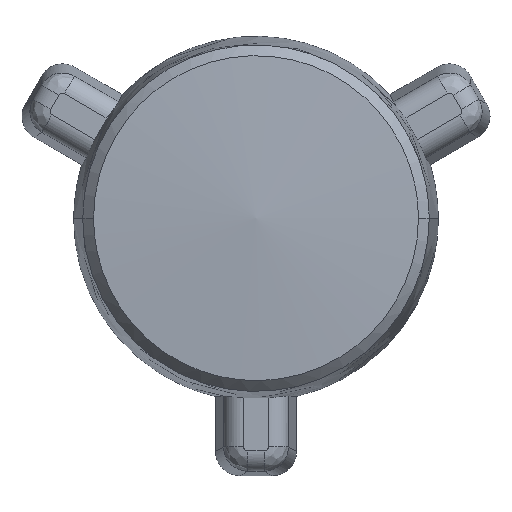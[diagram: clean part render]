
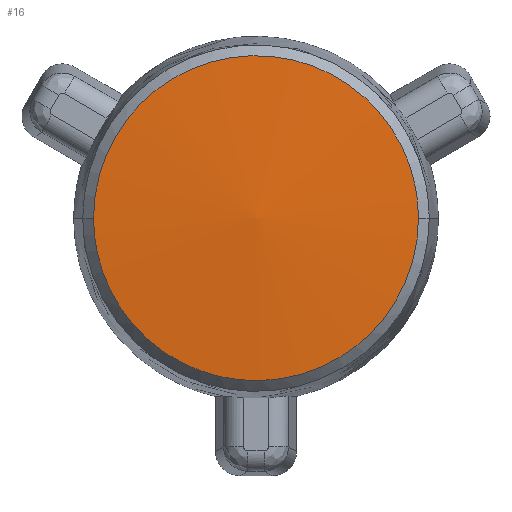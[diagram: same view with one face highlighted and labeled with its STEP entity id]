
A CAD part, top view. The second image highlights one B-rep face of the part: STEP entity #16.
In plain terms, the highlighted free-form (B-spline) face has degree [2, 2] with [3, 3] control points.
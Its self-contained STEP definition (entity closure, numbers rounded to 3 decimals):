
#16=ADVANCED_FACE('',(#82),#989,.T.);
#82=FACE_OUTER_BOUND('',#148,.T.);
#148=EDGE_LOOP('',(#216,#217));
#216=ORIENTED_EDGE('',*,*,#704,.F.);
#217=ORIENTED_EDGE('',*,*,#545,.F.);
#545=EDGE_CURVE('',#873,#972,#812,.T.);
#704=EDGE_CURVE('',#972,#873,#871,.T.);
#812=B_SPLINE_CURVE_WITH_KNOTS('',3,(#1831,#1832,#1833,#1834,#1835,#1836,
#1837,#1838,#1839,#1840,#1841),.UNSPECIFIED.,.F.,.F.,(4,1,1,1,1,1,1,1,4),
(0.,1.56,3.121,4.681,6.242,7.802,
9.363,10.923,12.484),.UNSPECIFIED.);
#871=B_SPLINE_CURVE_WITH_KNOTS('',3,(#2531,#2532,#2533,#2534,#2535,#2536,
#2537,#2538,#2539,#2540,#2541),.UNSPECIFIED.,.F.,.F.,(4,1,1,1,1,1,1,1,4),
(12.484,14.044,15.605,17.165,18.726,
20.286,21.847,23.407,24.968),
 .UNSPECIFIED.);
#873=VERTEX_POINT('',#1728);
#972=VERTEX_POINT('',#1827);
#989=(
BOUNDED_SURFACE()
B_SPLINE_SURFACE(2,2,((#1694,#1695,#1696),(#1697,#1698,#1699),(#1700,#1701,
#1702)),.UNSPECIFIED.,.F.,.F.,.F.)
B_SPLINE_SURFACE_WITH_KNOTS((3,3),(3,3),(105.858,114.053),
(-4.097,4.097),.UNSPECIFIED.)
GEOMETRIC_REPRESENTATION_ITEM()
RATIONAL_B_SPLINE_SURFACE(((1.,0.993,1.),(0.993,
0.986,0.993),(1.,0.993,1.)))
REPRESENTATION_ITEM('')
SURFACE()
);
#1694=CARTESIAN_POINT('',(4.06,4.088,6.523));
#1695=CARTESIAN_POINT('',(4.116,0.,7.));
#1696=CARTESIAN_POINT('',(4.06,-4.088,6.523));
#1697=CARTESIAN_POINT('',(0.,4.088,7.));
#1698=CARTESIAN_POINT('',(0.,0.,7.484));
#1699=CARTESIAN_POINT('',(0.,-4.088,7.));
#1700=CARTESIAN_POINT('',(-4.06,4.088,6.522));
#1701=CARTESIAN_POINT('',(-4.116,0.,7.));
#1702=CARTESIAN_POINT('',(-4.06,-4.088,6.522));
#1728=CARTESIAN_POINT('',(4.008,0.,6.77));
#1827=CARTESIAN_POINT('',(-4.008,0.,6.77));
#1831=CARTESIAN_POINT('',(4.008,0.,6.77));
#1832=CARTESIAN_POINT('',(4.008,-0.525,6.77));
#1833=CARTESIAN_POINT('',(3.8,-1.574,6.77));
#1834=CARTESIAN_POINT('',(2.908,-2.908,6.77));
#1835=CARTESIAN_POINT('',(1.574,-3.8,6.77));
#1836=CARTESIAN_POINT('',(0.,-4.113,6.77));
#1837=CARTESIAN_POINT('',(-1.574,-3.8,6.77));
#1838=CARTESIAN_POINT('',(-2.908,-2.908,6.77));
#1839=CARTESIAN_POINT('',(-3.8,-1.574,6.77));
#1840=CARTESIAN_POINT('',(-4.008,-0.525,6.77));
#1841=CARTESIAN_POINT('',(-4.008,0.,6.77));
#2531=CARTESIAN_POINT('',(-4.008,0.,6.77));
#2532=CARTESIAN_POINT('',(-4.008,0.525,6.77));
#2533=CARTESIAN_POINT('',(-3.8,1.574,6.77));
#2534=CARTESIAN_POINT('',(-2.908,2.908,6.77));
#2535=CARTESIAN_POINT('',(-1.574,3.8,6.77));
#2536=CARTESIAN_POINT('',(0.,4.113,6.77));
#2537=CARTESIAN_POINT('',(1.574,3.8,6.77));
#2538=CARTESIAN_POINT('',(2.908,2.908,6.77));
#2539=CARTESIAN_POINT('',(3.8,1.574,6.77));
#2540=CARTESIAN_POINT('',(4.008,0.525,6.77));
#2541=CARTESIAN_POINT('',(4.008,0.,6.77));
